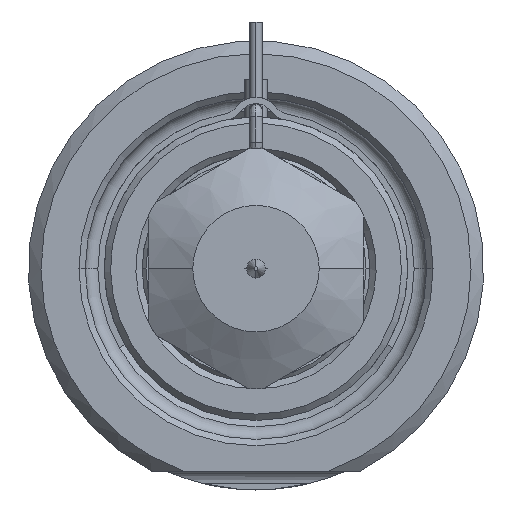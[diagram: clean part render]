
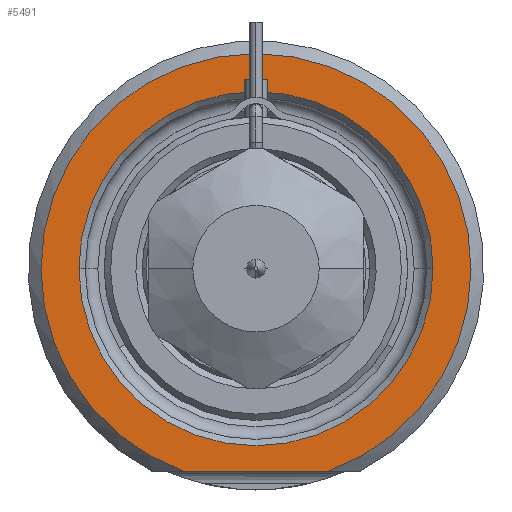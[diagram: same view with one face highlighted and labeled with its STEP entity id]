
A CAD part, front view. The second image highlights one B-rep face of the part: STEP entity #5491.
In plain terms, the highlighted planar face has unit normal (0, -1, 0).
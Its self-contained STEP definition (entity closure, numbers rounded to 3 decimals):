
#1890=DIRECTION('',(1.,0.,0.));
#1891=VECTOR('',#1890,11.489);
#1892=CARTESIAN_POINT('',(-5.745,0.,-16.));
#1893=LINE('',#1892,#1891);
#1894=CARTESIAN_POINT('',(0.,0.,0.));
#1895=DIRECTION('',(0.,1.,0.));
#1896=DIRECTION('',(-1.,0.,0.));
#1897=AXIS2_PLACEMENT_3D('',#1894,#1895,#1896);
#1899=CARTESIAN_POINT('',(0.,0.,0.));
#1900=DIRECTION('',(0.,1.,0.));
#1901=DIRECTION('',(1.,0.,0.));
#1902=AXIS2_PLACEMENT_3D('',#1899,#1900,#1901);
#2006=CARTESIAN_POINT('',(0.,0.,0.));
#2007=DIRECTION('',(0.,-1.,0.));
#2008=DIRECTION('',(0.338,0.,-0.941));
#2009=AXIS2_PLACEMENT_3D('',#2006,#2007,#2008);
#3054=CARTESIAN_POINT('',(-14.,0.,0.));
#3055=CARTESIAN_POINT('',(14.,0.,0.));
#3056=VERTEX_POINT('',#3054);
#3057=VERTEX_POINT('',#3055);
#3094=CARTESIAN_POINT('',(-5.745,0.,-16.));
#3095=CARTESIAN_POINT('',(5.745,0.,-16.));
#3096=VERTEX_POINT('',#3094);
#3097=VERTEX_POINT('',#3095);
#5475=CARTESIAN_POINT('',(0.,0.,0.));
#5476=DIRECTION('',(0.,-1.,0.));
#5477=DIRECTION('',(1.,0.,0.));
#5478=AXIS2_PLACEMENT_3D('',#5475,#5476,#5477);
#5479=PLANE('',#5478);
#5481=ORIENTED_EDGE('',*,*,#5480,.F.);
#5483=ORIENTED_EDGE('',*,*,#5482,.F.);
#5484=EDGE_LOOP('',(#5481,#5483));
#5485=FACE_OUTER_BOUND('',#5484,.F.);
#5487=ORIENTED_EDGE('',*,*,#5486,.F.);
#5488=ORIENTED_EDGE('',*,*,#5465,.F.);
#5489=EDGE_LOOP('',(#5487,#5488));
#5490=FACE_BOUND('',#5489,.F.);
#5491=ADVANCED_FACE('',(#5485,#5490),#5479,.T.);
#1898=CIRCLE('',#1897,14.);
#1903=CIRCLE('',#1902,14.);
#2010=CIRCLE('',#2009,17.);
#5465=EDGE_CURVE('',#3057,#3056,#1903,.T.);
#5480=EDGE_CURVE('',#3096,#3097,#1893,.T.);
#5482=EDGE_CURVE('',#3097,#3096,#2010,.T.);
#5486=EDGE_CURVE('',#3056,#3057,#1898,.T.);
